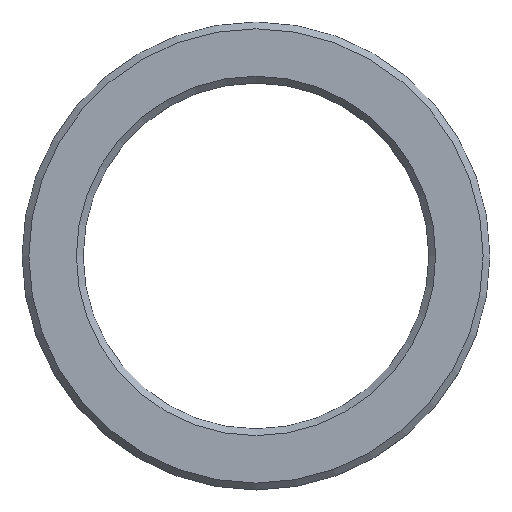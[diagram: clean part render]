
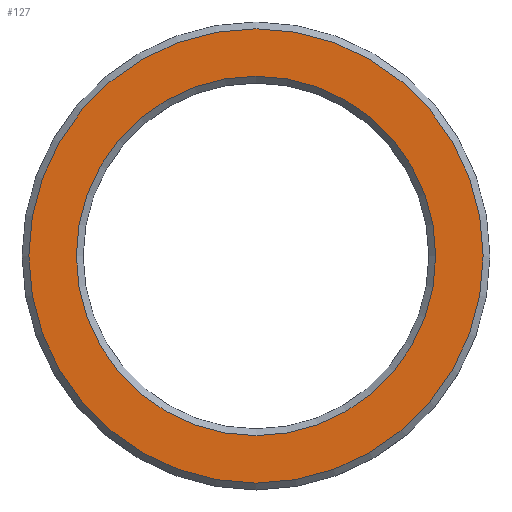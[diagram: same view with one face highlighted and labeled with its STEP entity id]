
A CAD part, top view. The second image highlights one B-rep face of the part: STEP entity #127.
In plain terms, the highlighted planar face has unit normal (0, 0, 1).
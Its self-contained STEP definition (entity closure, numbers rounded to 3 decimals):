
#16=FACE_BOUND('',#35,.T.);
#18=PLANE('',#162);
#25=FACE_OUTER_BOUND('',#34,.T.);
#34=EDGE_LOOP('',(#105));
#35=EDGE_LOOP('',(#106));
#57=CIRCLE('',#161,33.5);
#58=CIRCLE('',#163,26.5);
#67=VERTEX_POINT('',#232);
#68=VERTEX_POINT('',#236);
#79=EDGE_CURVE('',#67,#67,#57,.T.);
#81=EDGE_CURVE('',#68,#68,#58,.T.);
#105=ORIENTED_EDGE('',*,*,#79,.F.);
#106=ORIENTED_EDGE('',*,*,#81,.F.);
#127=ADVANCED_FACE('',(#25,#16),#18,.T.);
#161=AXIS2_PLACEMENT_3D('',#233,#193,#194);
#162=AXIS2_PLACEMENT_3D('',#235,#196,#197);
#163=AXIS2_PLACEMENT_3D('',#237,#198,#199);
#193=DIRECTION('center_axis',(0.,0.,-1.));
#194=DIRECTION('ref_axis',(-1.,0.,0.));
#196=DIRECTION('center_axis',(0.,0.,1.));
#197=DIRECTION('ref_axis',(1.,0.,0.));
#198=DIRECTION('center_axis',(0.,0.,1.));
#199=DIRECTION('ref_axis',(-1.,0.,0.));
#232=CARTESIAN_POINT('',(33.5,0.,10.));
#233=CARTESIAN_POINT('Origin',(0.,0.,10.));
#235=CARTESIAN_POINT('Origin',(0.,0.,10.));
#236=CARTESIAN_POINT('',(26.5,0.,10.));
#237=CARTESIAN_POINT('Origin',(0.,0.,10.));
